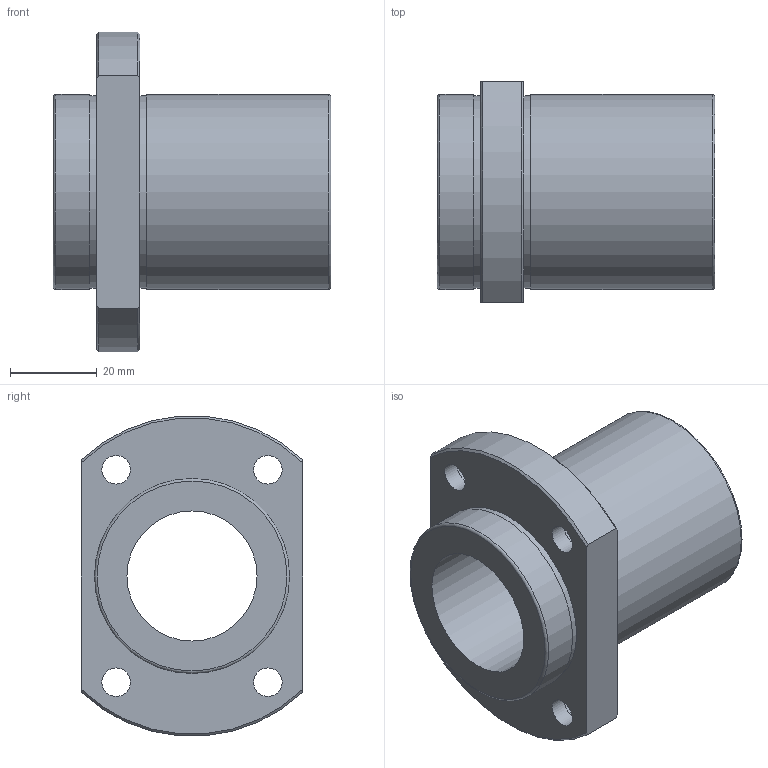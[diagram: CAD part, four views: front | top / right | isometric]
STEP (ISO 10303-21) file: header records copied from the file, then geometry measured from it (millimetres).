
FILE_DESCRIPTION(('STEP AP203'),'1');
FILE_NAME('//192.168.1.1/share/s-4 技術開発/s-4-4_CAD/s-4-4-3_見直し済み/002 修正済み/NFIO-V/NFIO-V_TOP/NFIO30.step','2022-03-07T02:09:36',(' '),(' '),'Spatial InterOp 3D',' ',' ');
FILE_SCHEMA(('CONFIG_CONTROL_DESIGN'));
Length unit declared in the file: millimetre
Products named in the file (1): 1
Bounding box: 64 x 51 x 73.74 mm (x, y, z)
Volume: 72098.9 mm3; surface area: 22263.4 mm2
Topology: 1 solids, 1 shells, 33 faces, 69 edges, 46 vertices
Faces by surface type: cylinder 15, plane 12, cone 4, torus 2
Full cylindrical faces by diameter (mm): 6.6 x4, 11 x4, 30 x1, 44.4 x2, 45 x2
Entity records: 878 total; most frequent: CARTESIAN_POINT 154, DIRECTION 148, ORIENTED_EDGE 104, AXIS2_PLACEMENT_3D 70, EDGE_LOOP 66, EDGE_CURVE 52, FACE_OUTER_BOUND 48, VERTEX_POINT 44
